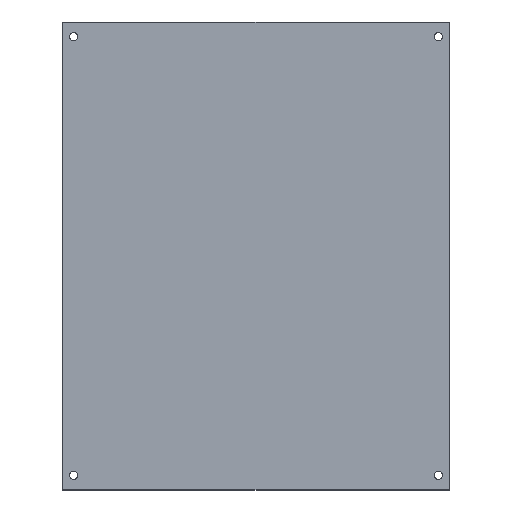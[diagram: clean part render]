
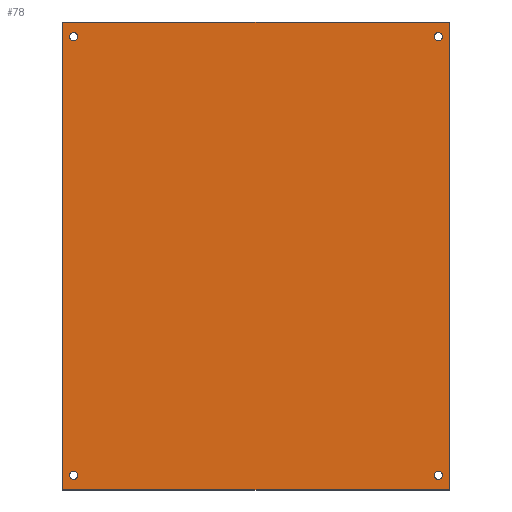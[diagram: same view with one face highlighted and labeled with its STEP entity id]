
A CAD part, top view. The second image highlights one B-rep face of the part: STEP entity #78.
In plain terms, the highlighted planar face has unit normal (0, 0, 1).
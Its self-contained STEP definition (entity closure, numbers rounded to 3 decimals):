
#52=FACE_BOUND('',#102,.T.);
#53=FACE_BOUND('',#103,.T.);
#54=FACE_BOUND('',#104,.T.);
#55=FACE_BOUND('',#105,.T.);
#56=FACE_BOUND('',#106,.T.);
#69=CIRCLE('',#225,2.25);
#70=CIRCLE('',#226,2.25);
#71=CIRCLE('',#227,2.25);
#72=CIRCLE('',#228,2.25);
#78=ADVANCED_FACE('',(#52,#53,#54,#55,#56),#88,.T.);
#88=PLANE('',#229);
#102=EDGE_LOOP('',(#139));
#103=EDGE_LOOP('',(#140));
#104=EDGE_LOOP('',(#141));
#105=EDGE_LOOP('',(#142));
#106=EDGE_LOOP('',(#143,#144,#145,#146));
#139=ORIENTED_EDGE('',*,*,#187,.T.);
#140=ORIENTED_EDGE('',*,*,#188,.T.);
#141=ORIENTED_EDGE('',*,*,#189,.T.);
#142=ORIENTED_EDGE('',*,*,#190,.T.);
#143=ORIENTED_EDGE('',*,*,#171,.F.);
#144=ORIENTED_EDGE('',*,*,#175,.F.);
#145=ORIENTED_EDGE('',*,*,#178,.F.);
#146=ORIENTED_EDGE('',*,*,#181,.F.);
#155=VERTEX_POINT('',#286);
#156=VERTEX_POINT('',#287);
#159=VERTEX_POINT('',#295);
#161=VERTEX_POINT('',#301);
#167=VERTEX_POINT('',#319);
#168=VERTEX_POINT('',#321);
#169=VERTEX_POINT('',#323);
#170=VERTEX_POINT('',#325);
#171=EDGE_CURVE('',#155,#156,#191,.T.);
#175=EDGE_CURVE('',#159,#155,#195,.T.);
#178=EDGE_CURVE('',#161,#159,#198,.T.);
#181=EDGE_CURVE('',#156,#161,#201,.T.);
#187=EDGE_CURVE('',#167,#167,#69,.T.);
#188=EDGE_CURVE('',#168,#168,#70,.T.);
#189=EDGE_CURVE('',#169,#169,#71,.T.);
#190=EDGE_CURVE('',#170,#170,#72,.T.);
#191=LINE('',#285,#203);
#195=LINE('',#294,#207);
#198=LINE('',#300,#210);
#201=LINE('',#306,#213);
#203=VECTOR('',#236,1.);
#207=VECTOR('',#242,1.);
#210=VECTOR('',#247,1.);
#213=VECTOR('',#252,1.);
#225=AXIS2_PLACEMENT_3D('',#318,#266,#267);
#226=AXIS2_PLACEMENT_3D('',#320,#268,#269);
#227=AXIS2_PLACEMENT_3D('',#322,#270,#271);
#228=AXIS2_PLACEMENT_3D('',#324,#272,#273);
#229=AXIS2_PLACEMENT_3D('',#326,#274,#275);
#236=DIRECTION('',(0.,1.,0.));
#242=DIRECTION('',(-1.,0.,0.));
#247=DIRECTION('',(0.,-1.,0.));
#252=DIRECTION('',(1.,0.,0.));
#266=DIRECTION('',(0.,0.,-1.));
#267=DIRECTION('',(-1.,0.,0.));
#268=DIRECTION('',(0.,0.,-1.));
#269=DIRECTION('',(-1.,0.,0.));
#270=DIRECTION('',(0.,0.,-1.));
#271=DIRECTION('',(-1.,0.,0.));
#272=DIRECTION('',(0.,0.,-1.));
#273=DIRECTION('',(-1.,0.,0.));
#274=DIRECTION('',(0.,0.,1.));
#275=DIRECTION('',(1.,0.,0.));
#285=CARTESIAN_POINT('',(-105.,127.,0.));
#286=CARTESIAN_POINT('',(-105.,-127.,0.));
#287=CARTESIAN_POINT('',(-105.,127.,0.));
#294=CARTESIAN_POINT('',(-105.,-127.,0.));
#295=CARTESIAN_POINT('',(105.,-127.,0.));
#300=CARTESIAN_POINT('',(105.,-127.,0.));
#301=CARTESIAN_POINT('',(105.,127.,0.));
#306=CARTESIAN_POINT('',(105.,127.,0.));
#318=CARTESIAN_POINT('',(99.,119.,0.));
#319=CARTESIAN_POINT('',(96.75,119.,0.));
#320=CARTESIAN_POINT('',(99.,-119.,0.));
#321=CARTESIAN_POINT('',(96.75,-119.,0.));
#322=CARTESIAN_POINT('',(-99.,119.,0.));
#323=CARTESIAN_POINT('',(-101.25,119.,0.));
#324=CARTESIAN_POINT('',(-99.,-119.,0.));
#325=CARTESIAN_POINT('',(-101.25,-119.,0.));
#326=CARTESIAN_POINT('',(0.,0.,0.));
